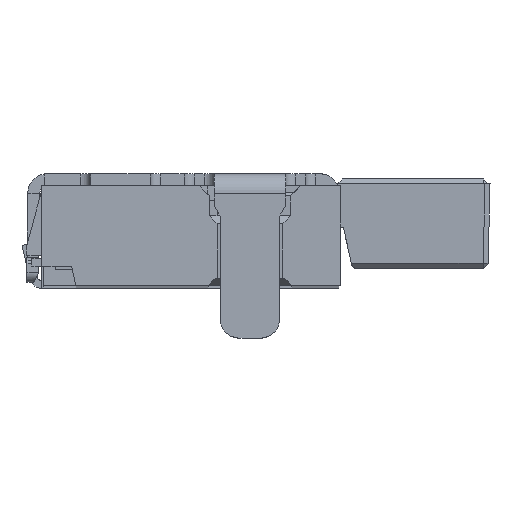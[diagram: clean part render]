
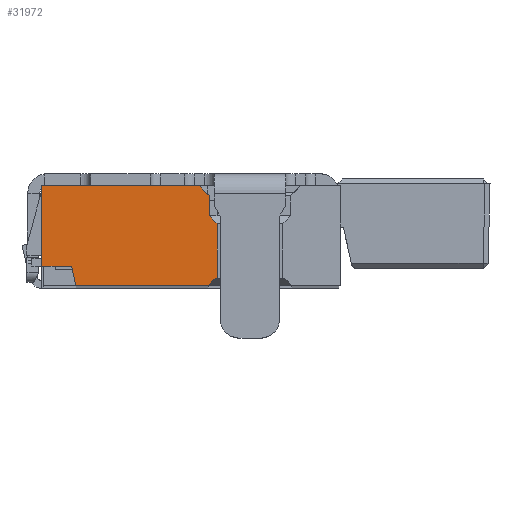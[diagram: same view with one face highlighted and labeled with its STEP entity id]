
A CAD part, left-side view. The second image highlights one B-rep face of the part: STEP entity #31972.
In plain terms, the highlighted planar face has unit normal (-1, 0, 0).
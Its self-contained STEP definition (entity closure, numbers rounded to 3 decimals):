
#49 = CARTESIAN_POINT ( 'NONE',  ( -4.525, 1.5, 0.224 ) ) ;
#50 = LINE ( 'NONE', #49, #195 ) ;
#51 = DIRECTION ( 'NONE',  ( 0., 0., -1. ) ) ;
#52 = DIRECTION ( 'NONE',  ( 1., 0., 0. ) ) ;
#53 = CARTESIAN_POINT ( 'NONE',  ( -4.525, -0.26, 0.03 ) ) ;
#54 = AXIS2_PLACEMENT_3D ( 'NONE', #53, #52, #51 ) ;
#55 = PLANE ( 'NONE',  #54 ) ;
#67 = DIRECTION ( 'NONE',  ( 0., -1., 0. ) ) ;
#68 = VECTOR ( 'NONE', #67, 1000. ) ;
#69 = CARTESIAN_POINT ( 'NONE',  ( -4.525, -0.26, 1.03 ) ) ;
#70 = LINE ( 'NONE', #69, #68 ) ;
#133 = FACE_OUTER_BOUND ( 'NONE', #32011, .T. ) ;
#193 = CARTESIAN_POINT ( 'NONE',  ( -4.525, 1.5, 0.224 ) ) ;
#194 = DIRECTION ( 'NONE',  ( 0., 0., -1. ) ) ;
#195 = VECTOR ( 'NONE', #194, 1000. ) ;
#236 = CARTESIAN_POINT ( 'NONE',  ( -4.525, 1.5, 1.03 ) ) ;
#3725 = CARTESIAN_POINT ( 'NONE',  ( -4.525, -0.08, 1.03 ) ) ;
#10866 = CARTESIAN_POINT ( 'NONE',  ( -4.525, -0.94, 0.1 ) ) ;
#10867 = LINE ( 'NONE', #10866, #10924 ) ;
#10923 = DIRECTION ( 'NONE',  ( 0., -1., 0. ) ) ;
#10924 = VECTOR ( 'NONE', #10923, 1000. ) ;
#11220 = CARTESIAN_POINT ( 'NONE',  ( -4.525, 1.157, 0.03 ) ) ;
#11223 = CARTESIAN_POINT ( 'NONE',  ( -4.525, -0.17, 0.03 ) ) ;
#11227 = DIRECTION ( 'NONE',  ( 0., 1., 0. ) ) ;
#11228 = VECTOR ( 'NONE', #11227, 1000. ) ;
#11230 = CARTESIAN_POINT ( 'NONE',  ( -4.525, -0.26, 0.03 ) ) ;
#11232 = LINE ( 'NONE', #11230, #11228 ) ;
#13057 = CARTESIAN_POINT ( 'NONE',  ( -4.525, -0.18, 0.73 ) ) ;
#20262 = DIRECTION ( 'NONE',  ( 0., 0.218, 0.976 ) ) ;
#20263 = VECTOR ( 'NONE', #20262, 1000. ) ;
#20278 = CARTESIAN_POINT ( 'NONE',  ( -4.525, 1.157, 0.03 ) ) ;
#20279 = LINE ( 'NONE', #20278, #20263 ) ;
#20333 = CARTESIAN_POINT ( 'NONE',  ( -4.525, -0.18, 0.93 ) ) ;
#20422 = CARTESIAN_POINT ( 'NONE',  ( -4.525, -0.18, 0.03 ) ) ;
#20423 = LINE ( 'NONE', #20422, #20464 ) ;
#20463 = DIRECTION ( 'NONE',  ( 0., 0., -1. ) ) ;
#20464 = VECTOR ( 'NONE', #20463, 1000. ) ;
#20608 = CARTESIAN_POINT ( 'NONE',  ( -4.525, -0.26, 0.65 ) ) ;
#20625 = CARTESIAN_POINT ( 'NONE',  ( -4.525, 1.2, 0.224 ) ) ;
#20715 = DIRECTION ( 'NONE',  ( 0., -0.707, -0.707 ) ) ;
#20716 = VECTOR ( 'NONE', #20715, 1000. ) ;
#20717 = CARTESIAN_POINT ( 'NONE',  ( -4.525, -0.18, 0.73 ) ) ;
#20718 = LINE ( 'NONE', #20717, #20716 ) ;
#21069 = CARTESIAN_POINT ( 'NONE',  ( -4.525, -0.26, 0.1 ) ) ;
#21112 = DIRECTION ( 'NONE',  ( 0., 0., -1. ) ) ;
#21113 = VECTOR ( 'NONE', #21112, 1000. ) ;
#21114 = CARTESIAN_POINT ( 'NONE',  ( -4.525, -0.26, 0.03 ) ) ;
#21115 = LINE ( 'NONE', #21114, #21113 ) ;
#21215 = DIRECTION ( 'NONE',  ( 0., 0.707, -0.707 ) ) ;
#21216 = VECTOR ( 'NONE', #21215, 1000. ) ;
#21217 = CARTESIAN_POINT ( 'NONE',  ( -4.525, -0.24, 0.1 ) ) ;
#21218 = LINE ( 'NONE', #21217, #21216 ) ;
#21272 = DIRECTION ( 'NONE',  ( 0., -0.707, -0.707 ) ) ;
#21273 = VECTOR ( 'NONE', #21272, 1000. ) ;
#21274 = CARTESIAN_POINT ( 'NONE',  ( -4.525, -0.08, 1.03 ) ) ;
#21275 = LINE ( 'NONE', #21274, #21273 ) ;
#21314 = CARTESIAN_POINT ( 'NONE',  ( -4.525, -0.24, 0.1 ) ) ;
#22562 = DIRECTION ( 'NONE',  ( 0., -1., 0. ) ) ;
#22563 = VECTOR ( 'NONE', #22562, 1000. ) ;
#22564 = CARTESIAN_POINT ( 'NONE',  ( -4.525, 1.2, 0.224 ) ) ;
#22565 = LINE ( 'NONE', #22564, #22563 ) ;
#26257 = EDGE_CURVE ( 'NONE', #30519, #30462, #10867, .T. ) ;
#28970 = ORIENTED_EDGE ( 'NONE', *, *, #26257, .T. ) ;
#28971 = ORIENTED_EDGE ( 'NONE', *, *, #30506, .F. ) ;
#28972 = ORIENTED_EDGE ( 'NONE', *, *, #29781, .F. ) ;
#28973 = ORIENTED_EDGE ( 'NONE', *, *, #30179, .F. ) ;
#29781 = EDGE_CURVE ( 'NONE', #29782, #29783, #11232, .T. ) ;
#29782 = VERTEX_POINT ( 'NONE', #11223 ) ;
#29783 = VERTEX_POINT ( 'NONE', #11220 ) ;
#29866 = VERTEX_POINT ( 'NONE', #13057 ) ;
#30179 = EDGE_CURVE ( 'NONE', #29783, #30264, #20279, .T. ) ;
#30186 = VERTEX_POINT ( 'NONE', #20333 ) ;
#30197 = EDGE_CURVE ( 'NONE', #30186, #29866, #20423, .T. ) ;
#30250 = VERTEX_POINT ( 'NONE', #20608 ) ;
#30264 = VERTEX_POINT ( 'NONE', #20625 ) ;
#30339 = EDGE_CURVE ( 'NONE', #29866, #30250, #20718, .T. ) ;
#30460 = EDGE_CURVE ( 'NONE', #30250, #30462, #21115, .T. ) ;
#30462 = VERTEX_POINT ( 'NONE', #21069 ) ;
#30506 = EDGE_CURVE ( 'NONE', #30519, #29782, #21218, .T. ) ;
#30519 = VERTEX_POINT ( 'NONE', #21314 ) ;
#30550 = EDGE_CURVE ( 'NONE', #30658, #30186, #21275, .T. ) ;
#30658 = VERTEX_POINT ( 'NONE', #3725 ) ;
#31556 = EDGE_CURVE ( 'NONE', #31980, #30264, #22565, .T. ) ;
#31971 = EDGE_CURVE ( 'NONE', #32009, #30658, #70, .T. ) ;
#31972 = ADVANCED_FACE ( 'NONE', ( #133 ), #55, .F. ) ;
#31973 = ORIENTED_EDGE ( 'NONE', *, *, #30460, .F. ) ;
#31974 = ORIENTED_EDGE ( 'NONE', *, *, #30339, .F. ) ;
#31975 = ORIENTED_EDGE ( 'NONE', *, *, #30197, .F. ) ;
#31976 = ORIENTED_EDGE ( 'NONE', *, *, #30550, .F. ) ;
#31977 = ORIENTED_EDGE ( 'NONE', *, *, #31971, .F. ) ;
#31978 = ORIENTED_EDGE ( 'NONE', *, *, #31979, .T. ) ;
#31979 = EDGE_CURVE ( 'NONE', #32009, #31980, #50, .T. ) ;
#31980 = VERTEX_POINT ( 'NONE', #193 ) ;
#31981 = ORIENTED_EDGE ( 'NONE', *, *, #31556, .T. ) ;
#32009 = VERTEX_POINT ( 'NONE', #236 ) ;
#32011 = EDGE_LOOP ( 'NONE', ( #31973, #31974, #31975, #31976, #31977, #31978, #31981, #28973, #28972, #28971, #28970 ) ) ;
